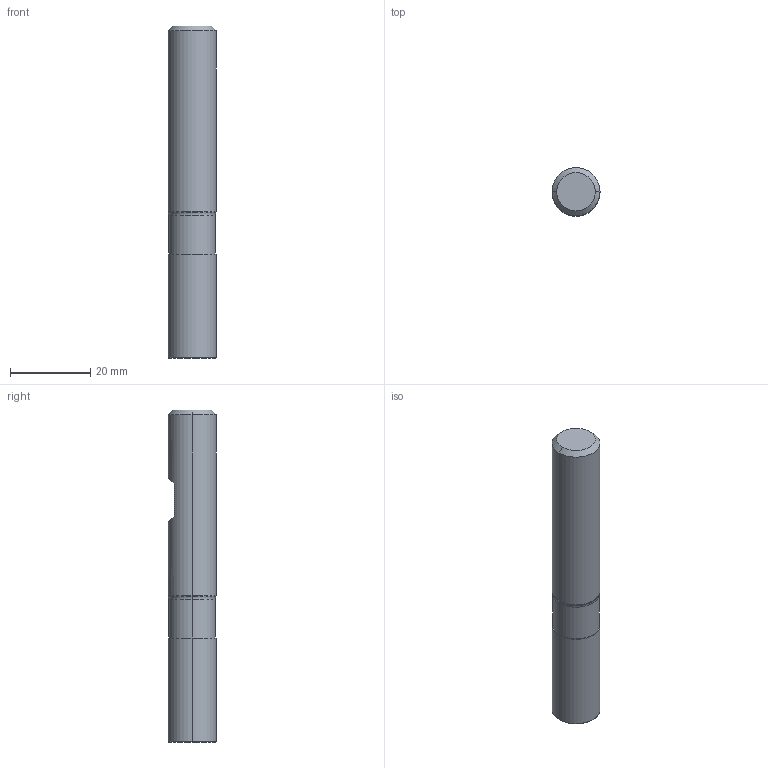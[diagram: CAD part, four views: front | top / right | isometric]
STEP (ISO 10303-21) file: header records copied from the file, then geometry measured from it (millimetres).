
FILE_DESCRIPTION (( 'STEP AP214' ), '1' );
FILE_NAME ('2.403.120.10_3D-model.step', '2022-02-15T18:34:03', ( '' ), ( '' ), 'SwSTEP 2.0', 'SolidWorks 2020', '' );
FILE_SCHEMA (( 'AUTOMOTIVE_DESIGN' ));
Length unit declared in the file: millimetre
Products named in the file (3): 2.403.120.10_3D-model; CUT-3D^Baugr55; NOCUT-3D^Baugr55
Assembly tree (2 placements, depth 2):
  2.403.120.10_3D-model
    CUT-3D^Baugr55
    NOCUT-3D^Baugr55
Bounding box: 12 x 12 x 83 mm (x, y, z)
Volume: 9220.4 mm3; surface area: 3533.8 mm2
Topology: 2 solids, 2 shells, 21 faces, 38 edges, 22 vertices
Faces by surface type: plane 7, cylinder 6, cone 6, torus 2
Entity records: 634 total; most frequent: DIRECTION 114, CARTESIAN_POINT 95, ORIENTED_EDGE 76, AXIS2_PLACEMENT_3D 49, EDGE_CURVE 38, VERTEX_POINT 22, EDGE_LOOP 22, FACE_OUTER_BOUND 21
